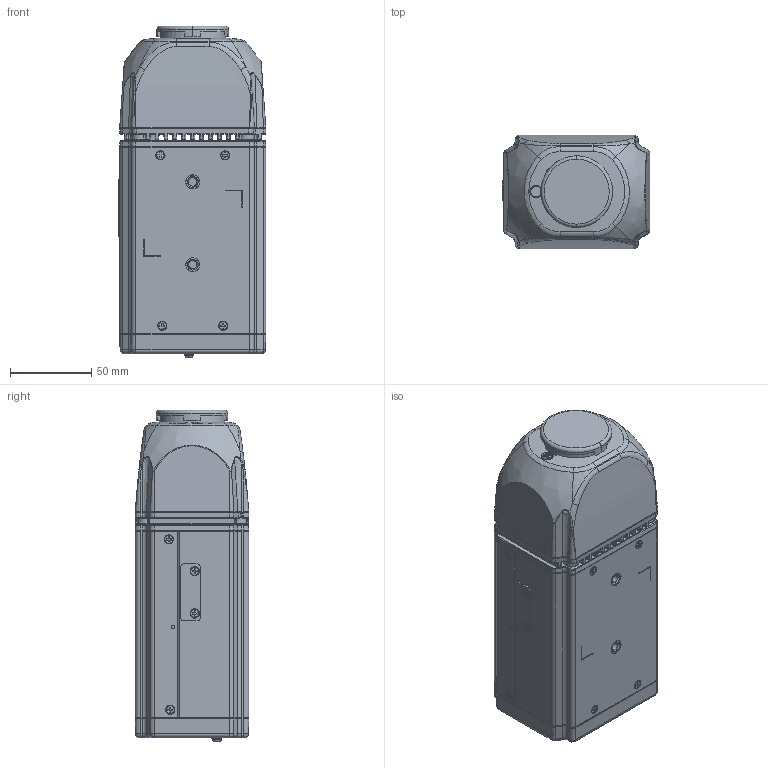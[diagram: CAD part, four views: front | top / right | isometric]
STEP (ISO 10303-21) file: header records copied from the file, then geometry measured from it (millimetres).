
FILE_DESCRIPTION((''),'2;1');
FILE_NAME('3D_VPORT36-2MP_SERIES','2016-06-27T',('Charlie'),('PTC'),'PRO/ENGINEER BY PARAMETRIC TECHNOLOGY CORPORATION, 2014000','PRO/ENGINEER BY PARAMETRIC TECHNOLOGY CORPORATION, 2014000','');
FILE_SCHEMA(('AUTOMOTIVE_DESIGN { 1 0 10303 214 1 1 1 1 }'));
Products named in the file (1): 3D_VPORT36-2MP_SERIES
Bounding box: 90.9 x 70 x 204.15 mm (x, y, z)
Volume: 806451.4 mm3; surface area: 194364.2 mm2
Topology: 2 solids, 41 shells, 3307 faces, 8540 edges, 5473 vertices
Faces by surface type: plane 1631, cylinder 972, bspline 291, cone 280, torus 104, sphere 28, extrusion 1
Entity records: 128143 total; most frequent: CARTESIAN_POINT 48803, ORIENTED_EDGE 17000, DIRECTION 15519, EDGE_CURVE 8518, VERTEX_POINT 5473, AXIS2_PLACEMENT_3D 5239, VECTOR 5041, LINE 5040
